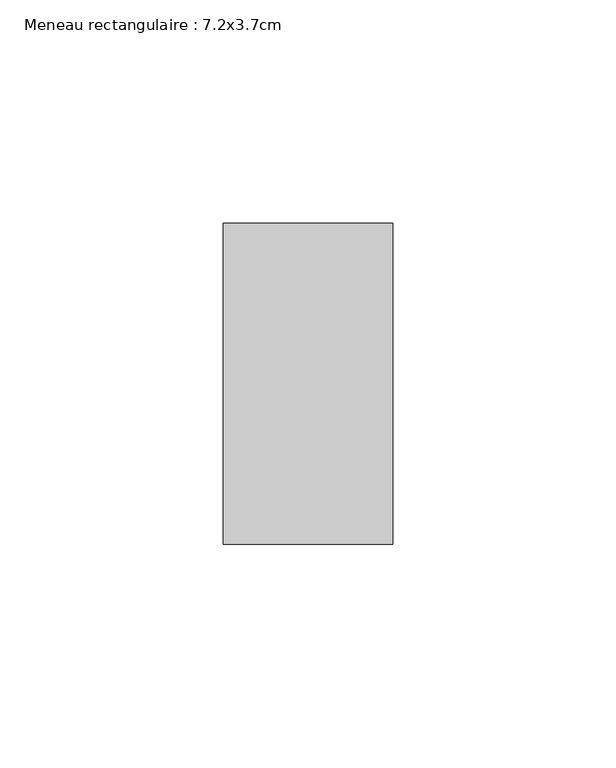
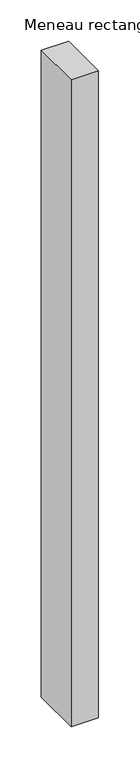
"""IFC4 building model written with IfcOpenShell, lengths in millimetres: member geometry, Meneau rectangulaire : 7.2x3.7cm."""

from ifc_helpers import new_model, si_unit, frame, origin, place, context, project, spatial, polyline, outline, extrude, source, transform, mapped, element, save


def meneau_rectangulaire_7_2x3_7cm_5c6b314c(model_context):
    return source(origin(), model_context, "Body", "SweptSolid", [
        extrude(outline(polyline([(0.0, 36.0), (0.0, -36.0), (-38.0, -36.0), (-38.0, 36.0), (0.0, 36.0)])), frame((0.0, 0.0, -954.903395), z_axis=(0.0, 0.0, 1.0), x_axis=(1.0, 0.0, 0.0)), (0.0, 0.0, 1.0), 954.903395),
    ])


if __name__ == "__main__":
    model = new_model("IFC4")
    model_context = context("Model", 3, world=origin())
    ifc_project = project(units=[si_unit("LENGTHUNIT", "METRE", prefix="MILLI")], contexts=[model_context])
    site = spatial("IfcSite", under=ifc_project)
    building = spatial("IfcBuilding", under=site)
    placement = place(None, origin())
    meneau_rectangulaire_7_2x3_7cm_shape = meneau_rectangulaire_7_2x3_7cm_5c6b314c(model_context)
    element("IfcMember", 1, ObjectType="Meneau rectangulaire : 7.2x3.7cm", at=placement, inside=building, context=model_context, shape_type="MappedRepresentation", body=[
        mapped(meneau_rectangulaire_7_2x3_7cm_shape, transform((0.0, 0.0, 0.0), x_axis=(1.0, 0.0, 0.0), y_axis=(0.0, 1.0, 0.0), z_axis=(0.0, 0.0, 1.0))),
    ])
    save(model, "model.ifc")
